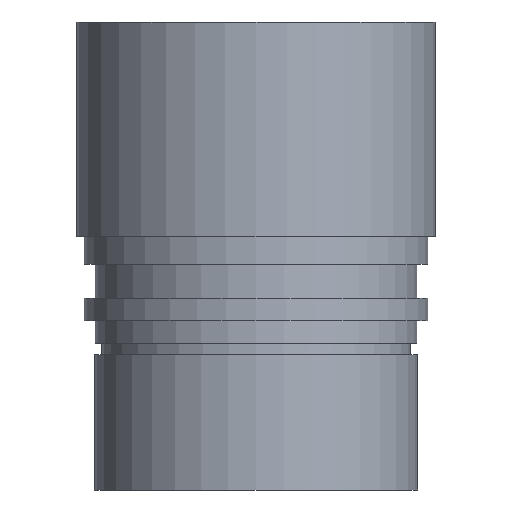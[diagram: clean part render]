
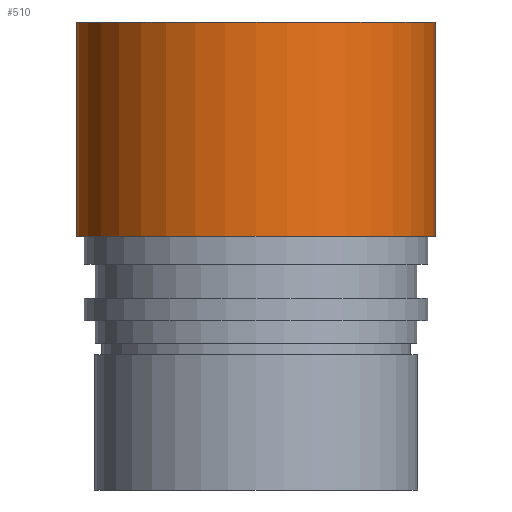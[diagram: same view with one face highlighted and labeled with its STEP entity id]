
A CAD part, front view. The second image highlights one B-rep face of the part: STEP entity #510.
In plain terms, the highlighted cylindrical face has radius 15.9 mm (diameter 31.8 mm), a full revolution.
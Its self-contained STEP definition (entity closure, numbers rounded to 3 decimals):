
#44 = CARTESIAN_POINT ( 'NONE',  ( 15.9, 0., -19. ) ) ;
#45 = VERTEX_POINT ( 'NONE', #44 ) ;
#85 = DIRECTION ( 'NONE',  ( 1., 0., 0. ) ) ;
#86 = DIRECTION ( 'NONE',  ( 0., 0., 1. ) ) ;
#87 = CARTESIAN_POINT ( 'NONE',  ( 0., 0., 0. ) ) ;
#130 = EDGE_LOOP ( 'NONE', ( #149 ) ) ;
#142 = EDGE_LOOP ( 'NONE', ( #162 ) ) ;
#149 = ORIENTED_EDGE ( 'NONE', *, *, #469, .F. ) ;
#162 = ORIENTED_EDGE ( 'NONE', *, *, #489, .F. ) ;
#215 = DIRECTION ( 'NONE',  ( 1., 0., 0. ) ) ;
#216 = DIRECTION ( 'NONE',  ( 0., 0., 1. ) ) ;
#217 = CARTESIAN_POINT ( 'NONE',  ( 0., 0., -19. ) ) ;
#261 = CARTESIAN_POINT ( 'NONE',  ( 15.9, 0., 0. ) ) ;
#263 = VERTEX_POINT ( 'NONE', #261 ) ;
#310 = AXIS2_PLACEMENT_3D ( 'NONE', #217, #216, #215 ) ;
#312 = FACE_OUTER_BOUND ( 'NONE', #130, .T. ) ;
#313 = FACE_OUTER_BOUND ( 'NONE', #142, .T. ) ;
#314 = CYLINDRICAL_SURFACE ( 'NONE', #310, 15.9 ) ;
#425 = DIRECTION ( 'NONE',  ( 1., 0., 0. ) ) ;
#426 = DIRECTION ( 'NONE',  ( 0., 0., -1. ) ) ;
#427 = CARTESIAN_POINT ( 'NONE',  ( 0., 0., -19. ) ) ;
#469 = EDGE_CURVE ( 'NONE', #263, #263, #513, .T. ) ;
#489 = EDGE_CURVE ( 'NONE', #45, #45, #534, .T. ) ;
#510 = ADVANCED_FACE ( 'NONE', ( #312, #313 ), #314, .T. ) ;
#513 = CIRCLE ( 'NONE', #570, 15.9 ) ;
#534 = CIRCLE ( 'NONE', #554, 15.9 ) ;
#554 = AXIS2_PLACEMENT_3D ( 'NONE', #427, #426, #425 ) ;
#570 = AXIS2_PLACEMENT_3D ( 'NONE', #87, #86, #85 ) ;
